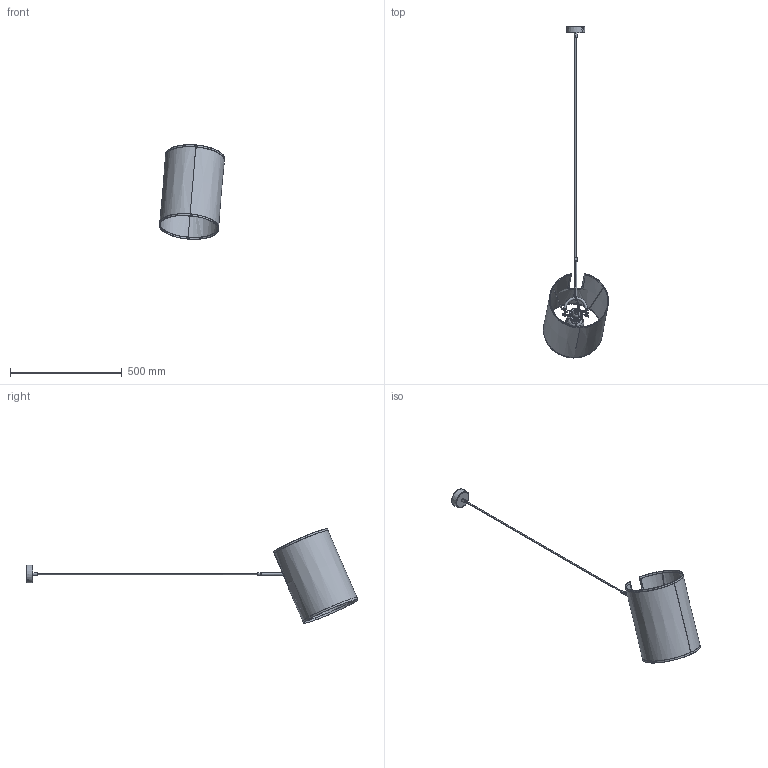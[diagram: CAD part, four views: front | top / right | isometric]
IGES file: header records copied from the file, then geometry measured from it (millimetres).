
Start section: SolidWorks IGES file using analytic representation for surfaces
Global section: file name: E:\Modele 3D_¿arówki_oprawki_kostki\Oprawki\Zelda du¿a zwis.IGS; native system: SolidWorks 2016; preprocessor: SolidWorks 2016; author: Asia; date: 170526.144748; units: millimetre
Bounding box: 291.56 x 1486.77 x 424.09 mm (x, y, z)
Surface area: 765012 mm2 (no closed solid volume)
Topology: 0 solids, 0 shells, 867 faces, 12840 edges, 12787 vertices
Faces by surface type: bspline 442, revolution 425
